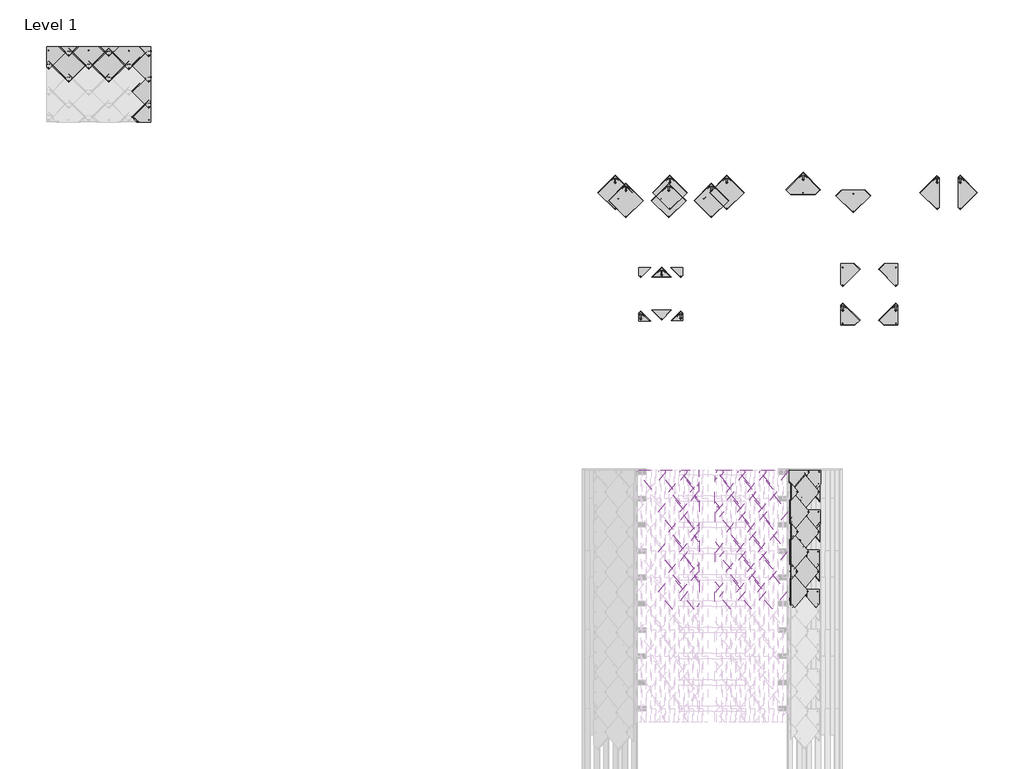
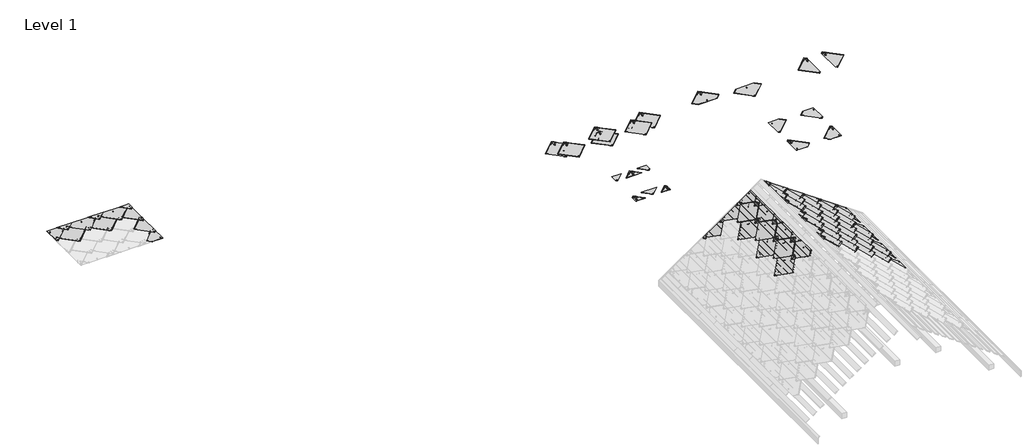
# One storey, part 6 of 6: 86 proxies.
"""IFC4 building model written with IfcOpenShell, lengths in millimetres."""

from ifc_helpers import new_model, si_unit, origin, place, context, project, spatial, transform, mapped, element, save
from components import generic_models_2e27a9fd, generic_models_13d44858, corner_bottom_big_left_black_6b9b3caf, corner_bottom_big_right_black_b907a22d, corner_bottom_small_left_black_798ab3c3, corner_bottom_small_right_black_c7c14b37, corner_top_big_left_black_ba74b52e, corner_top_big_right_black_5e162ca8, corner_top_small_left_black_1e1a13ea, corner_top_small_right_black_2f2f0a71, roofing_panels_sunstyle_tile_non_pv_shingle_non_pv_shingle_be952c39, roofing_panels_sunstyle_tile_shingle_bottom_shingle_bottom_4eb983e8, roofing_panels_sunstyle_tile_shingle_bottom_small_shingle_761d3557, roofing_panels_sunstyle_tile_shingle_left_shingle_left_black_59aad734, roofing_panels_sunstyle_tile_shingle_right_shingle_right_37b1760f, roofing_panels_sunstyle_tile_shingle_top_shingle_top_black_4c6098d4, roofing_panels_sunstyle_tile_shingle_top_small_shingle_top_a40e7fca

model = new_model("IFC4")

# Units and contexts
model_context = context("Model", 3, world=origin())
ifc_project = project(units=[si_unit("LENGTHUNIT", "METRE", prefix="MILLI")], contexts=[model_context])

# Site, building, storey
site = spatial("IfcSite", under=ifc_project)
building = spatial("IfcBuilding", under=site)
storey = spatial("IfcBuildingStorey", under=building, Name="Level 1", Elevation=0.0)

# Proxies
placement = place(None, origin())
generic_models_shape = generic_models_2e27a9fd(model_context)
element("IfcBuildingElementProxy", 1, Name="Roofing_Solar-Panels_SunStyle_Shingle-Sunstyle : Shingle-Sunstyle - Terracotta", ObjectType="Roofing_Solar-Panels_SunStyle_Shingle-Sunstyle : Shingle-Sunstyle - Terracotta", at=placement, inside=storey, context=model_context, shape_type="MappedRepresentation", body=[
    mapped(generic_models_shape, transform((1183.1620599, 12128.1358596, 0.0), x_axis=(1.0, 0.0, 0.0), y_axis=(0.0, 1.0, 0.0), z_axis=(0.0, 0.0, 1.0))),
])
element("IfcBuildingElementProxy", 2, Name="Roofing_Solar-Panels_SunStyle_Shingle-Sunstyle : Shingle Sunstyle - Black", ObjectType="Roofing_Solar-Panels_SunStyle_Shingle-Sunstyle : Shingle Sunstyle - Black", at=placement, inside=storey, context=model_context, shape_type="MappedRepresentation", body=[
    mapped(generic_models_shape, transform((345.4802975, 3253.0732971, 2227.4315855), x_axis=(0.0, -1.0, 0.0), y_axis=(0.8191520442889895, 0.0, 0.5735764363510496), z_axis=(-0.5735764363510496, 0.0, 0.8191520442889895))),
])
element("IfcBuildingElementProxy", 3, Name="Roofing_Solar-Panels_SunStyle_Shingle-Sunstyle : Shingle Sunstyle - Black", ObjectType="Roofing_Solar-Panels_SunStyle_Shingle-Sunstyle : Shingle Sunstyle - Black", at=placement, inside=storey, context=model_context, shape_type="MappedRepresentation", body=[
    mapped(generic_models_shape, transform((26.0313901, 2645.5136672, 2003.7510525), x_axis=(0.0, -1.0, 0.0), y_axis=(0.8191520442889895, 0.0, 0.5735764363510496), z_axis=(-0.5735764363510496, 0.0, 0.8191520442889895))),
])
element("IfcBuildingElementProxy", 4, Name="Roofing_Solar-Panels_SunStyle_Shingle-Sunstyle : Shingle Sunstyle - Black", ObjectType="Roofing_Solar-Panels_SunStyle_Shingle-Sunstyle : Shingle Sunstyle - Black", at=placement, inside=storey, context=model_context, shape_type="MappedRepresentation", body=[
    mapped(generic_models_shape, transform((1753.9407645, 2649.1288923, 2447.3925076), x_axis=(0.0, 1.0, 0.0), y_axis=(-0.8191520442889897, 0.0, 0.5735764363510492), z_axis=(0.5735764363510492, 0.0, 0.8191520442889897))),
])
element("IfcBuildingElementProxy", 5, Name="Roofing_Solar-Panels_SunStyle_Shingle-Sunstyle : Shingle Sunstyle - Black", ObjectType="Roofing_Solar-Panels_SunStyle_Shingle-Sunstyle : Shingle Sunstyle - Black", at=placement, inside=storey, context=model_context, shape_type="MappedRepresentation", body=[
    mapped(generic_models_shape, transform((2401.4129378, 2649.1126292, 1994.0276111), x_axis=(0.0, 1.0, 0.0), y_axis=(-0.8191520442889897, 0.0, 0.5735764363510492), z_axis=(0.5735764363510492, 0.0, 0.8191520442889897))),
])
element("IfcBuildingElementProxy", 6, Name="Roofing_Solar-Panels_SunStyle_Shingle-Sunstyle : Shingle Sunstyle - Black", ObjectType="Roofing_Solar-Panels_SunStyle_Shingle-Sunstyle : Shingle Sunstyle - Black", at=placement, inside=storey, context=model_context, shape_type="MappedRepresentation", body=[
    mapped(generic_models_shape, transform((3050.8783691, 2650.0472293, 1539.2670203), x_axis=(0.0, 1.0, 0.0), y_axis=(-0.8191520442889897, 0.0, 0.5735764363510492), z_axis=(0.5735764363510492, 0.0, 0.8191520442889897))),
])
element("IfcBuildingElementProxy", 7, Name="Roofing_Solar-Panels_SunStyle_Shingle-Sunstyle : Shingle Sunstyle - Black", ObjectType="Roofing_Solar-Panels_SunStyle_Shingle-Sunstyle : Shingle Sunstyle - Black", at=placement, inside=storey, context=model_context, shape_type="MappedRepresentation", body=[
    mapped(generic_models_shape, transform((3698.3844567, 2650.116256, 1085.8783767), x_axis=(0.0, 1.0, 0.0), y_axis=(-0.8191520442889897, 0.0, 0.5735764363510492), z_axis=(0.5735764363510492, 0.0, 0.8191520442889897))),
])
element("IfcBuildingElementProxy", 8, Name="Roofing_Solar-Panels_SunStyle_Shingle-Sunstyle : Shingle Sunstyle - Black", ObjectType="Roofing_Solar-Panels_SunStyle_Shingle-Sunstyle : Shingle Sunstyle - Black", at=placement, inside=storey, context=model_context, shape_type="MappedRepresentation", body=[
    mapped(generic_models_shape, transform((3359.7841494, 3261.9633144, 1322.9688644), x_axis=(0.0, 1.0, 0.0), y_axis=(-0.8191520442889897, 0.0, 0.5735764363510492), z_axis=(0.5735764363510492, 0.0, 0.8191520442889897))),
])
element("IfcBuildingElementProxy", 9, Name="Roofing_Solar-Panels_SunStyle_Shingle-Sunstyle : Shingle Sunstyle - Black", ObjectType="Roofing_Solar-Panels_SunStyle_Shingle-Sunstyle : Shingle Sunstyle - Black", at=placement, inside=storey, context=model_context, shape_type="MappedRepresentation", body=[
    mapped(generic_models_shape, transform((4007.0116941, 3261.7329028, 869.7752587), x_axis=(0.0, 1.0, 0.0), y_axis=(-0.8191520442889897, 0.0, 0.5735764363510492), z_axis=(0.5735764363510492, 0.0, 0.8191520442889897))),
])
element("IfcBuildingElementProxy", 10, Name="Roofing_Solar-Panels_SunStyle_Shingle-Sunstyle : Shingle Sunstyle - Black", ObjectType="Roofing_Solar-Panels_SunStyle_Shingle-Sunstyle : Shingle Sunstyle - Black", at=placement, inside=storey, context=model_context, shape_type="MappedRepresentation", body=[
    mapped(generic_models_shape, transform((-1416.8379401, 12128.1358596, 0.0), x_axis=(1.0, 0.0, 0.0), y_axis=(0.0, 1.0, 0.0), z_axis=(0.0, 0.0, 1.0))),
])
element("IfcBuildingElementProxy", 11, Name="Roofing_Solar-Panels_SunStyle_Shingle-Sunstyle : Shingle Sunstyle - Black", ObjectType="Roofing_Solar-Panels_SunStyle_Shingle-Sunstyle : Shingle Sunstyle - Black", at=placement, inside=storey, context=model_context, shape_type="MappedRepresentation", body=[
    mapped(generic_models_shape, transform((-78.9861205, 12373.1387531, 0.0), x_axis=(1.0, 0.0, 0.0), y_axis=(0.0, 1.0, 0.0), z_axis=(0.0, 0.0, 1.0))),
])
element("IfcBuildingElementProxy", 12, Name="Roofing_Solar-Panels_SunStyle_Shingle-Sunstyle : Shingle Sunstyle - Black", ObjectType="Roofing_Solar-Panels_SunStyle_Shingle-Sunstyle : Shingle Sunstyle - Black", at=placement, inside=storey, context=model_context, shape_type="MappedRepresentation", body=[
    mapped(generic_models_shape, transform((26.0313901, 1425.9321402, 2003.7510525), x_axis=(0.0, -1.0, 0.0), y_axis=(0.8191520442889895, 0.0, 0.5735764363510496), z_axis=(-0.5735764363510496, 0.0, 0.8191520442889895))),
])
element("IfcBuildingElementProxy", 13, Name="Roofing_Solar-Panels_SunStyle_Shingle-Sunstyle : Shingle Sunstyle - Black", ObjectType="Roofing_Solar-Panels_SunStyle_Shingle-Sunstyle : Shingle Sunstyle - Black", at=placement, inside=storey, context=model_context, shape_type="MappedRepresentation", body=[
    mapped(generic_models_shape, transform((345.4802975, 2033.4917701, 2227.4315855), x_axis=(0.0, -1.0, 0.0), y_axis=(0.8191520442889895, 0.0, 0.5735764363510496), z_axis=(-0.5735764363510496, 0.0, 0.8191520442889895))),
])
element("IfcBuildingElementProxy", 14, Name="Roofing_Solar-Panels_SunStyle_Shingle-Sunstyle : Shingle Sunstyle - Black", ObjectType="Roofing_Solar-Panels_SunStyle_Shingle-Sunstyle : Shingle Sunstyle - Black", at=placement, inside=storey, context=model_context, shape_type="MappedRepresentation", body=[
    mapped(generic_models_shape, transform((26.0313901, 206.3506132, 2003.7510525), x_axis=(0.0, -1.0, 0.0), y_axis=(0.8191520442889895, 0.0, 0.5735764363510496), z_axis=(-0.5735764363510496, 0.0, 0.8191520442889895))),
])
element("IfcBuildingElementProxy", 15, Name="Roofing_Solar-Panels_SunStyle_Shingle-Sunstyle : Shingle Sunstyle - Black", ObjectType="Roofing_Solar-Panels_SunStyle_Shingle-Sunstyle : Shingle Sunstyle - Black", at=placement, inside=storey, context=model_context, shape_type="MappedRepresentation", body=[
    mapped(generic_models_shape, transform((345.4802975, 813.9102431, 2227.4315855), x_axis=(0.0, -1.0, 0.0), y_axis=(0.8191520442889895, 0.0, 0.5735764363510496), z_axis=(-0.5735764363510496, 0.0, 0.8191520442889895))),
])
element("IfcBuildingElementProxy", 16, Name="Roofing_Solar-Panels_SunStyle_Shingle-Sunstyle : Shingle Sunstyle - Black", ObjectType="Roofing_Solar-Panels_SunStyle_Shingle-Sunstyle : Shingle Sunstyle - Black", at=placement, inside=storey, context=model_context, shape_type="MappedRepresentation", body=[
    mapped(generic_models_shape, transform((2712.1388692, 3261.8870209, 1776.4549717), x_axis=(0.0, 1.0, 0.0), y_axis=(-0.8191520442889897, 0.0, 0.5735764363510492), z_axis=(0.5735764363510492, 0.0, 0.8191520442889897))),
])
element("IfcBuildingElementProxy", 17, Name="Roofing_Solar-Panels_SunStyle_Shingle-Sunstyle : Shingle Sunstyle - Black", ObjectType="Roofing_Solar-Panels_SunStyle_Shingle-Sunstyle : Shingle Sunstyle - Black", at=placement, inside=storey, context=model_context, shape_type="MappedRepresentation", body=[
    mapped(generic_models_shape, transform((2071.3229563, 3261.8870209, 2225.1591045), x_axis=(0.0, 1.0, 0.0), y_axis=(-0.8191520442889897, 0.0, 0.5735764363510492), z_axis=(0.5735764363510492, 0.0, 0.8191520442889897))),
])
element("IfcBuildingElementProxy", 18, Name="Roofing_Solar-Panels_SunStyle_Shingle-Sunstyle : Shingle Sunstyle - Black", ObjectType="Roofing_Solar-Panels_SunStyle_Shingle-Sunstyle : Shingle Sunstyle - Black", at=placement, inside=storey, context=model_context, shape_type="MappedRepresentation", body=[
    mapped(generic_models_shape, transform((2393.4112115, 1434.5035904, 1999.6304802), x_axis=(0.0, 1.0, 0.0), y_axis=(-0.8191520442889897, 0.0, 0.5735764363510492), z_axis=(0.5735764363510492, 0.0, 0.8191520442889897))),
])
element("IfcBuildingElementProxy", 19, Name="Roofing_Solar-Panels_SunStyle_Shingle-Sunstyle : Shingle Sunstyle - Black", ObjectType="Roofing_Solar-Panels_SunStyle_Shingle-Sunstyle : Shingle Sunstyle - Black", at=placement, inside=storey, context=model_context, shape_type="MappedRepresentation", body=[
    mapped(generic_models_shape, transform((3031.6212279, 1435.5229446, 1552.7510158), x_axis=(0.0, 1.0, 0.0), y_axis=(-0.8191520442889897, 0.0, 0.5735764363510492), z_axis=(0.5735764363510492, 0.0, 0.8191520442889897))),
])
element("IfcBuildingElementProxy", 20, Name="Roofing_Solar-Panels_SunStyle_Shingle-Sunstyle : Shingle Sunstyle - Black", ObjectType="Roofing_Solar-Panels_SunStyle_Shingle-Sunstyle : Shingle Sunstyle - Black", at=placement, inside=storey, context=model_context, shape_type="MappedRepresentation", body=[
    mapped(generic_models_shape, transform((2380.7504058, 219.1853736, 2008.4956718), x_axis=(0.0, 1.0, 0.0), y_axis=(-0.8191520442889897, 0.0, 0.5735764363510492), z_axis=(0.5735764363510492, 0.0, 0.8191520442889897))),
])
element("IfcBuildingElementProxy", 21, Name="Roofing_Solar-Panels_SunStyle_Shingle-Sunstyle : Shingle Sunstyle - Black", ObjectType="Roofing_Solar-Panels_SunStyle_Shingle-Sunstyle : Shingle Sunstyle - Black", at=placement, inside=storey, context=model_context, shape_type="MappedRepresentation", body=[
    mapped(generic_models_shape, transform((3018.9604222, 220.2047277, 1561.6162073), x_axis=(0.0, 1.0, 0.0), y_axis=(-0.8191520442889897, 0.0, 0.5735764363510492), z_axis=(0.5735764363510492, 0.0, 0.8191520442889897))),
])
element("IfcBuildingElementProxy", 22, Name="Roofing_Solar-Panels_SunStyle_Shingle-Sunstyle : Shingle Sunstyle - Black", ObjectType="Roofing_Solar-Panels_SunStyle_Shingle-Sunstyle : Shingle Sunstyle - Black", at=placement, inside=storey, context=model_context, shape_type="MappedRepresentation", body=[
    mapped(generic_models_shape, transform((2712.1388692, 2046.3135484, 1776.4549717), x_axis=(0.0, 1.0, 0.0), y_axis=(-0.8191520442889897, 0.0, 0.5735764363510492), z_axis=(0.5735764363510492, 0.0, 0.8191520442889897))),
])
element("IfcBuildingElementProxy", 23, Name="Roofing_Solar-Panels_SunStyle_Shingle-Sunstyle : Shingle Sunstyle - Black", ObjectType="Roofing_Solar-Panels_SunStyle_Shingle-Sunstyle : Shingle Sunstyle - Black", at=placement, inside=storey, context=model_context, shape_type="MappedRepresentation", body=[
    mapped(generic_models_shape, transform((2071.3229563, 2046.3135484, 2225.1591045), x_axis=(0.0, 1.0, 0.0), y_axis=(-0.8191520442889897, 0.0, 0.5735764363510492), z_axis=(0.5735764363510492, 0.0, 0.8191520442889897))),
])
element("IfcBuildingElementProxy", 24, Name="Roofing_Solar-Panels_SunStyle_Shingle-Sunstyle : Shingle Sunstyle - Black", ObjectType="Roofing_Solar-Panels_SunStyle_Shingle-Sunstyle : Shingle Sunstyle - Black", at=placement, inside=storey, context=model_context, shape_type="MappedRepresentation", body=[
    mapped(generic_models_shape, transform((2699.8330605, 830.9953316, 1785.0715917), x_axis=(0.0, 1.0, 0.0), y_axis=(-0.8191520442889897, 0.0, 0.5735764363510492), z_axis=(0.5735764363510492, 0.0, 0.8191520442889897))),
])
element("IfcBuildingElementProxy", 25, Name="Roofing_Solar-Panels_SunStyle_Shingle-Sunstyle : Shingle Sunstyle - Black", ObjectType="Roofing_Solar-Panels_SunStyle_Shingle-Sunstyle : Shingle Sunstyle - Black", at=placement, inside=storey, context=model_context, shape_type="MappedRepresentation", body=[
    mapped(generic_models_shape, transform((2059.0171476, 830.9953316, 2233.7757245), x_axis=(0.0, 1.0, 0.0), y_axis=(-0.8191520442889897, 0.0, 0.5735764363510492), z_axis=(0.5735764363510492, 0.0, 0.8191520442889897))),
])
element("IfcBuildingElementProxy", 26, Name="Roofing_Solar-Panels_SunStyle_Shingle-Sunstyle : Shingle Sunstyle - Black", ObjectType="Roofing_Solar-Panels_SunStyle_Shingle-Sunstyle : Shingle Sunstyle - Black", at=placement, inside=storey, context=model_context, shape_type="MappedRepresentation", body=[
    mapped(generic_models_shape, transform((3359.7841494, 2041.9633144, 1322.9688644), x_axis=(0.0, 1.0, 0.0), y_axis=(-0.8191520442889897, 0.0, 0.5735764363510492), z_axis=(0.5735764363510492, 0.0, 0.8191520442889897))),
])
element("IfcBuildingElementProxy", 27, Name="Roofing_Solar-Panels_SunStyle_Shingle-Sunstyle : Shingle Sunstyle - Black", ObjectType="Roofing_Solar-Panels_SunStyle_Shingle-Sunstyle : Shingle Sunstyle - Black", at=placement, inside=storey, context=model_context, shape_type="MappedRepresentation", body=[
    mapped(generic_models_shape, transform((4007.0116941, 2041.7329028, 869.7752587), x_axis=(0.0, 1.0, 0.0), y_axis=(-0.8191520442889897, 0.0, 0.5735764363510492), z_axis=(0.5735764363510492, 0.0, 0.8191520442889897))),
])
element("IfcBuildingElementProxy", 28, Name="Roofing_Solar-Panels_SunStyle_Shingle-Sunstyle : Shingle Sunstyle - Black", ObjectType="Roofing_Solar-Panels_SunStyle_Shingle-Sunstyle : Shingle Sunstyle - Black", at=placement, inside=storey, context=model_context, shape_type="MappedRepresentation", body=[
    mapped(generic_models_shape, transform((3681.0146048, 1435.3013064, 1098.040878), x_axis=(0.0, 1.0, 0.0), y_axis=(-0.8191520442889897, 0.0, 0.5735764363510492), z_axis=(0.5735764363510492, 0.0, 0.8191520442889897))),
])
element("IfcBuildingElementProxy", 29, Name="Roofing_Solar-Panels_SunStyle_Shingle-Sunstyle : Shingle Sunstyle - Black", ObjectType="Roofing_Solar-Panels_SunStyle_Shingle-Sunstyle : Shingle Sunstyle - Black", at=placement, inside=storey, context=model_context, shape_type="MappedRepresentation", body=[
    mapped(generic_models_shape, transform((3347.42815, 830.8238496, 1331.6206283), x_axis=(0.0, 1.0, 0.0), y_axis=(-0.8191520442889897, 0.0, 0.5735764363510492), z_axis=(0.5735764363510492, 0.0, 0.8191520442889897))),
])
element("IfcBuildingElementProxy", 30, Name="Roofing_Solar-Panels_SunStyle_Shingle-Sunstyle : Shingle Sunstyle - Black", ObjectType="Roofing_Solar-Panels_SunStyle_Shingle-Sunstyle : Shingle Sunstyle - Black", at=placement, inside=storey, context=model_context, shape_type="MappedRepresentation", body=[
    mapped(generic_models_shape, transform((3994.6556947, 830.593438, 878.4270226), x_axis=(0.0, 1.0, 0.0), y_axis=(-0.8191520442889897, 0.0, 0.5735764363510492), z_axis=(0.5735764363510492, 0.0, 0.8191520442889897))),
])
element("IfcBuildingElementProxy", 31, Name="Roofing_Solar-Panels_SunStyle_Shingle-Sunstyle : Shingle Sunstyle - Black", ObjectType="Roofing_Solar-Panels_SunStyle_Shingle-Sunstyle : Shingle Sunstyle - Black", at=placement, inside=storey, context=model_context, shape_type="MappedRepresentation", body=[
    mapped(generic_models_shape, transform((3668.6586054, 224.1618416, 1106.6926419), x_axis=(0.0, 1.0, 0.0), y_axis=(-0.8191520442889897, 0.0, 0.5735764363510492), z_axis=(0.5735764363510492, 0.0, 0.8191520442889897))),
])
element("IfcBuildingElementProxy", 32, Name="Roofing_Solar-Panels_SunStyle_Shingle-Sunstyle : Shingle Sunstyle - Black", ObjectType="Roofing_Solar-Panels_SunStyle_Shingle-Sunstyle : Shingle Sunstyle - Black", at=placement, inside=storey, context=model_context, shape_type="MappedRepresentation", body=[
    mapped(generic_models_shape, transform((1753.9407645, 1434.1288923, 2447.3925076), x_axis=(0.0, 1.0, 0.0), y_axis=(-0.8191520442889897, 0.0, 0.5735764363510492), z_axis=(0.5735764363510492, 0.0, 0.8191520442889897))),
])
element("IfcBuildingElementProxy", 33, Name="Roofing_Solar-Panels_SunStyle_Shingle-Sunstyle : Shingle Sunstyle - Black", ObjectType="Roofing_Solar-Panels_SunStyle_Shingle-Sunstyle : Shingle Sunstyle - Black", at=placement, inside=storey, context=model_context, shape_type="MappedRepresentation", body=[
    mapped(generic_models_shape, transform((1745.7492441, 219.1288923, 2453.128272), x_axis=(0.0, 1.0, 0.0), y_axis=(-0.8191520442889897, 0.0, 0.5735764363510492), z_axis=(0.5735764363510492, 0.0, 0.8191520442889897))),
])
element("IfcBuildingElementProxy", 34, Name="Roofing_Solar-Panels_SunStyle_Shingle-Sunstyle : Shingle Sunstyle - Silver", ObjectType="Roofing_Solar-Panels_SunStyle_Shingle-Sunstyle : Shingle Sunstyle - Silver", at=placement, inside=storey, context=model_context, shape_type="MappedRepresentation", body=[
    mapped(generic_models_shape, transform((-116.8379401, 12128.1358596, 0.0), x_axis=(1.0, 0.0, 0.0), y_axis=(0.0, 1.0, 0.0), z_axis=(0.0, 0.0, 1.0))),
])
generic_models_2_shape = generic_models_13d44858(model_context)
element("IfcBuildingElementProxy", 35, Name="Roofing_Panels_SunStyle_Tile_Shingle-Customisable : Shingle Customisable - Black", ObjectType="Roofing_Panels_SunStyle_Tile_Shingle-Customisable : Shingle Customisable - Black", at=placement, inside=storey, context=model_context, shape_type="MappedRepresentation", body=[
    mapped(generic_models_2_shape, transform((1654.7133821, 12373.1387531, 0.0), x_axis=(1.0, 0.0, 0.0), y_axis=(0.0, 1.0, 0.0), z_axis=(0.0, 0.0, 1.0))),
])
corner_bottom_big_left_black_shape = corner_bottom_big_left_black_6b9b3caf(model_context)
element("IfcBuildingElementProxy", 36, Name="Roofing_Panels_SunStyle_Tile_Corner-Bottom-Big-Left : Corner Bottom Big Left - Black", ObjectType="Roofing_Panels_SunStyle_Tile_Corner-Bottom-Big-Left : Corner Bottom Big Left - Black", at=placement, inside=storey, context=model_context, shape_type="MappedRepresentation", body=[
    mapped(corner_bottom_big_left_black_shape, transform((5177.5814, 8399.1088323, 0.0), x_axis=(1.0, 0.0, 0.0), y_axis=(0.0, 1.0, 0.0), z_axis=(0.0, 0.0, 1.0))),
])
corner_bottom_big_right_black_shape = corner_bottom_big_right_black_b907a22d(model_context)
element("IfcBuildingElementProxy", 37, Name="Roofing_Panels_SunStyle_Tile_Corner-Bottom-Big-Right : Corner Bottom Big Right - Black", ObjectType="Roofing_Panels_SunStyle_Tile_Corner-Bottom-Big-Right : Corner Bottom Big Right - Black", at=placement, inside=storey, context=model_context, shape_type="MappedRepresentation", body=[
    mapped(corner_bottom_big_right_black_shape, transform((4443.5185665, 3866.4195321, 564.1298561), x_axis=(0.0, 1.0, 0.0), y_axis=(-0.8191520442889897, 0.0, 0.5735764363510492), z_axis=(0.5735764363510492, 0.0, 0.8191520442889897))),
])
element("IfcBuildingElementProxy", 38, Name="Roofing_Panels_SunStyle_Tile_Corner-Bottom-Big-Right : Corner Bottom Big Right - Black", ObjectType="Roofing_Panels_SunStyle_Tile_Corner-Bottom-Big-Right : Corner Bottom Big Right - Black", at=placement, inside=storey, context=model_context, shape_type="MappedRepresentation", body=[
    mapped(corner_bottom_big_right_black_shape, transform((4421.9502419, 2650.116256, 579.2321596), x_axis=(0.0, 1.0, 0.0), y_axis=(-0.8191520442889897, 0.0, 0.5735764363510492), z_axis=(0.5735764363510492, 0.0, 0.8191520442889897))),
])
element("IfcBuildingElementProxy", 39, Name="Roofing_Panels_SunStyle_Tile_Corner-Bottom-Big-Right : Corner Bottom Big Right - Black", ObjectType="Roofing_Panels_SunStyle_Tile_Corner-Bottom-Big-Right : Corner Bottom Big Right - Black", at=placement, inside=storey, context=model_context, shape_type="MappedRepresentation", body=[
    mapped(corner_bottom_big_right_black_shape, transform((-15930.0622323, 14589.8354297, 0.0), x_axis=(1.0, 0.0, 0.0), y_axis=(0.0, 1.0, 0.0), z_axis=(0.0, 0.0, 1.0))),
])
element("IfcBuildingElementProxy", 40, Name="Roofing_Panels_SunStyle_Tile_Corner-Bottom-Big-Right : Corner Bottom Big Right - Black", ObjectType="Roofing_Panels_SunStyle_Tile_Corner-Bottom-Big-Right : Corner Bottom Big Right - Black", at=placement, inside=storey, context=model_context, shape_type="MappedRepresentation", body=[
    mapped(corner_bottom_big_right_black_shape, transform((6796.2093458, 8399.1088323, 0.0), x_axis=(1.0, 0.0, 0.0), y_axis=(0.0, 1.0, 0.0), z_axis=(0.0, 0.0, 1.0))),
])
element("IfcBuildingElementProxy", 41, Name="Roofing_Panels_SunStyle_Tile_Corner-Bottom-Big-Right : Corner Bottom Big Right - Black", ObjectType="Roofing_Panels_SunStyle_Tile_Corner-Bottom-Big-Right : Corner Bottom Big Right - Black", at=placement, inside=storey, context=model_context, shape_type="MappedRepresentation", body=[
    mapped(corner_bottom_big_right_black_shape, transform((4404.5803899, 1435.3013064, 591.3946608), x_axis=(0.0, 1.0, 0.0), y_axis=(-0.8191520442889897, 0.0, 0.5735764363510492), z_axis=(0.5735764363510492, 0.0, 0.8191520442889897))),
])
element("IfcBuildingElementProxy", 42, Name="Roofing_Panels_SunStyle_Tile_Corner-Bottom-Big-Right : Corner Bottom Big Right - Black", ObjectType="Roofing_Panels_SunStyle_Tile_Corner-Bottom-Big-Right : Corner Bottom Big Right - Black", at=placement, inside=storey, context=model_context, shape_type="MappedRepresentation", body=[
    mapped(corner_bottom_big_right_black_shape, transform((4392.2243906, 224.1618416, 600.0464247), x_axis=(0.0, 1.0, 0.0), y_axis=(-0.8191520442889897, 0.0, 0.5735764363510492), z_axis=(0.5735764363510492, 0.0, 0.8191520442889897))),
])
corner_bottom_small_left_black_shape = corner_bottom_small_left_black_798ab3c3(model_context)
element("IfcBuildingElementProxy", 43, Name="Roofing_Panels_SunStyle_Tile_Corner-Bottom-Small-Left : Corner Bottom Small Left - Black", ObjectType="Roofing_Panels_SunStyle_Tile_Corner-Bottom-Small-Left : Corner Bottom Small Left - Black", at=placement, inside=storey, context=model_context, shape_type="MappedRepresentation", body=[
    mapped(corner_bottom_small_left_black_shape, transform((-971.0115331, 8149.4851431, 0.0), x_axis=(1.0, 0.0, 0.0), y_axis=(0.0, 1.0, 0.0), z_axis=(0.0, 0.0, 1.0))),
])
corner_bottom_small_right_black_shape = corner_bottom_small_right_black_c7c14b37(model_context)
element("IfcBuildingElementProxy", 44, Name="Roofing_Panels_SunStyle_Tile_Corner-Bottom-Small-Right : Corner Bottom Small Right - Black", ObjectType="Roofing_Panels_SunStyle_Tile_Corner-Bottom-Small-Right : Corner Bottom Small Right - Black", at=placement, inside=storey, context=model_context, shape_type="MappedRepresentation", body=[
    mapped(corner_bottom_small_right_black_shape, transform((249.6658683, 8149.4851431, 0.0), x_axis=(1.0, 0.0, 0.0), y_axis=(0.0, 1.0, 0.0), z_axis=(0.0, 0.0, 1.0))),
])
corner_top_big_left_black_shape = corner_top_big_left_black_ba74b52e(model_context)
element("IfcBuildingElementProxy", 45, Name="Roofing_Panels_SunStyle_Tile_Corner-Top-Big-Left : Corner Top Big Left - Black", ObjectType="Roofing_Panels_SunStyle_Tile_Corner-Top-Big-Left : Corner Top Big Left - Black", at=placement, inside=storey, context=model_context, shape_type="MappedRepresentation", body=[
    mapped(corner_top_big_left_black_shape, transform((741.905872, 3865.0951942, 2505.0117611), x_axis=(0.0, -1.0, 0.0), y_axis=(0.8191520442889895, 0.0, 0.5735764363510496), z_axis=(-0.5735764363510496, 0.0, 0.8191520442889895))),
])
element("IfcBuildingElementProxy", 46, Name="Roofing_Panels_SunStyle_Tile_Corner-Top-Big-Left : Corner Top Big Left - Black", ObjectType="Roofing_Panels_SunStyle_Tile_Corner-Top-Big-Left : Corner Top Big Left - Black", at=placement, inside=storey, context=model_context, shape_type="MappedRepresentation", body=[
    mapped(corner_top_big_left_black_shape, transform((-18987.0196751, 16738.1410487, 0.0), x_axis=(1.0, 0.0, 0.0), y_axis=(0.0, 1.0, 0.0), z_axis=(0.0, 0.0, 1.0))),
])
element("IfcBuildingElementProxy", 47, Name="Roofing_Panels_SunStyle_Tile_Corner-Top-Big-Left : Corner Top Big Left - Black", ObjectType="Roofing_Panels_SunStyle_Tile_Corner-Top-Big-Left : Corner Top Big Left - Black", at=placement, inside=storey, context=model_context, shape_type="MappedRepresentation", body=[
    mapped(corner_top_big_left_black_shape, transform((5177.5814, 10128.3354445, 0.0), x_axis=(1.0, 0.0, 0.0), y_axis=(0.0, 1.0, 0.0), z_axis=(0.0, 0.0, 1.0))),
])
corner_top_big_right_black_shape = corner_top_big_right_black_5e162ca8(model_context)
element("IfcBuildingElementProxy", 48, Name="Roofing_Panels_SunStyle_Tile_Corner-Top-Big-Right : Corner Top Big Right - Black", ObjectType="Roofing_Panels_SunStyle_Tile_Corner-Top-Big-Right : Corner Top Big Right - Black", at=placement, inside=storey, context=model_context, shape_type="MappedRepresentation", body=[
    mapped(corner_top_big_right_black_shape, transform((6796.2093458, 10128.3354445, 0.0), x_axis=(1.0, 0.0, 0.0), y_axis=(0.0, 1.0, 0.0), z_axis=(0.0, 0.0, 1.0))),
])
corner_top_small_left_black_shape = corner_top_small_left_black_1e1a13ea(model_context)
element("IfcBuildingElementProxy", 49, Name="Roofing_Panels_SunStyle_Tile_Corner-Top-Small-Left : Corner Top Small Left - Black", ObjectType="Roofing_Panels_SunStyle_Tile_Corner-Top-Small-Left : Corner Top Small Left - Black", at=placement, inside=storey, context=model_context, shape_type="MappedRepresentation", body=[
    mapped(corner_top_small_left_black_shape, transform((-971.0115331, 10396.2161275, 0.0), x_axis=(1.0, 0.0, 0.0), y_axis=(0.0, 1.0, 0.0), z_axis=(0.0, 0.0, 1.0))),
])
corner_top_small_right_black_shape = corner_top_small_right_black_2f2f0a71(model_context)
element("IfcBuildingElementProxy", 50, Name="Roofing_Panels_SunStyle_Tile_Corner-Top-Small-Right : Corner Top Small Right - Black", ObjectType="Roofing_Panels_SunStyle_Tile_Corner-Top-Small-Right : Corner Top Small Right - Black", at=placement, inside=storey, context=model_context, shape_type="MappedRepresentation", body=[
    mapped(corner_top_small_right_black_shape, transform((1034.7612281, 3865.0951942, 2950.9674404), x_axis=(0.0, 1.0, 0.0), y_axis=(-0.8191520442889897, 0.0, 0.5735764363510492), z_axis=(0.5735764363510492, 0.0, 0.8191520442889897))),
])
element("IfcBuildingElementProxy", 51, Name="Roofing_Panels_SunStyle_Tile_Corner-Top-Small-Right : Corner Top Small Right - Black", ObjectType="Roofing_Panels_SunStyle_Tile_Corner-Top-Small-Right : Corner Top Small Right - Black", at=placement, inside=storey, context=model_context, shape_type="MappedRepresentation", body=[
    mapped(corner_top_small_right_black_shape, transform((-15930.0622323, 17128.7817705, 0.0), x_axis=(1.0, 0.0, 0.0), y_axis=(0.0, 1.0, 0.0), z_axis=(0.0, 0.0, 1.0))),
])
element("IfcBuildingElementProxy", 52, Name="Roofing_Panels_SunStyle_Tile_Corner-Top-Small-Right : Corner Top Small Right - Black", ObjectType="Roofing_Panels_SunStyle_Tile_Corner-Top-Small-Right : Corner Top Small Right - Black", at=placement, inside=storey, context=model_context, shape_type="MappedRepresentation", body=[
    mapped(corner_top_small_right_black_shape, transform((249.6658683, 10396.2161275, 0.0), x_axis=(1.0, 0.0, 0.0), y_axis=(0.0, 1.0, 0.0), z_axis=(0.0, 0.0, 1.0))),
])
roofing_panels_sunstyle_tile_non_pv_shingle_non_pv_shingle_shape = roofing_panels_sunstyle_tile_non_pv_shingle_non_pv_shingle_be952c39(model_context)
element("IfcBuildingElementProxy", 53, Name="Roofing_Panels_SunStyle_Tile_Non-PV-Shingle : Non PV Shingle - Black", ObjectType="Roofing_Panels_SunStyle_Tile_Non-PV-Shingle : Non PV Shingle - Black", at=placement, inside=storey, context=model_context, shape_type="MappedRepresentation", body=[
    mapped(roofing_panels_sunstyle_tile_non_pv_shingle_non_pv_shingle_shape, transform((-18375.6614882, 16253.9473656, 0.0), x_axis=(1.0, 0.0, 0.0), y_axis=(0.0, 1.0, 0.0), z_axis=(0.0, 0.0, 1.0))),
])
element("IfcBuildingElementProxy", 54, Name="Roofing_Panels_SunStyle_Tile_Non-PV-Shingle : Non PV Shingle - Black", ObjectType="Roofing_Panels_SunStyle_Tile_Non-PV-Shingle : Non PV Shingle - Black", at=placement, inside=storey, context=model_context, shape_type="MappedRepresentation", body=[
    mapped(roofing_panels_sunstyle_tile_non_pv_shingle_non_pv_shingle_shape, transform((-17152.8625549, 16254.5705537, 0.0), x_axis=(1.0, 0.0, 0.0), y_axis=(0.0, 1.0, 0.0), z_axis=(0.0, 0.0, 1.0))),
])
element("IfcBuildingElementProxy", 55, Name="Roofing_Panels_SunStyle_Tile_Non-PV-Shingle : Non PV Shingle - Black", ObjectType="Roofing_Panels_SunStyle_Tile_Non-PV-Shingle : Non PV Shingle - Black", at=placement, inside=storey, context=model_context, shape_type="MappedRepresentation", body=[
    mapped(roofing_panels_sunstyle_tile_non_pv_shingle_non_pv_shingle_shape, transform((-1749.4382965, 12373.1387531, 0.0), x_axis=(1.0, 0.0, 0.0), y_axis=(0.0, 1.0, 0.0), z_axis=(0.0, 0.0, 1.0))),
])
roofing_panels_sunstyle_tile_shingle_bottom_shingle_bottom_shape = roofing_panels_sunstyle_tile_shingle_bottom_shingle_bottom_4eb983e8(model_context)
element("IfcBuildingElementProxy", 56, Name="Roofing_Panels_SunStyle_Tile_Shingle-Bottom : Shingle Bottom - Black", ObjectType="Roofing_Panels_SunStyle_Tile_Shingle-Bottom : Shingle Bottom - Black", at=placement, inside=storey, context=model_context, shape_type="MappedRepresentation", body=[
    mapped(roofing_panels_sunstyle_tile_shingle_bottom_shingle_bottom_shape, transform((3972.6793706, 12373.1387531, 0.0), x_axis=(1.0, 0.0, 0.0), y_axis=(0.0, 1.0, 0.0), z_axis=(0.0, 0.0, 1.0))),
])
roofing_panels_sunstyle_tile_shingle_bottom_small_shingle_shape = roofing_panels_sunstyle_tile_shingle_bottom_small_shingle_761d3557(model_context)
element("IfcBuildingElementProxy", 57, Name="Roofing_Panels_SunStyle_Tile_Shingle-Bottom-Small : Shingle Bottom Small - Black", ObjectType="Roofing_Panels_SunStyle_Tile_Shingle-Bottom-Small : Shingle Bottom Small - Black", at=placement, inside=storey, context=model_context, shape_type="MappedRepresentation", body=[
    mapped(roofing_panels_sunstyle_tile_shingle_bottom_small_shingle_shape, transform((4744.3129196, 3261.6999897, 353.5113826), x_axis=(0.0, 1.0, 0.0), y_axis=(-0.8191520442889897, 0.0, 0.5735764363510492), z_axis=(0.5735764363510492, 0.0, 0.8191520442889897))),
])
element("IfcBuildingElementProxy", 58, Name="Roofing_Panels_SunStyle_Tile_Shingle-Bottom-Small : Shingle Bottom Small - Black", ObjectType="Roofing_Panels_SunStyle_Tile_Shingle-Bottom-Small : Shingle Bottom Small - Black", at=placement, inside=storey, context=model_context, shape_type="MappedRepresentation", body=[
    mapped(roofing_panels_sunstyle_tile_shingle_bottom_small_shingle_shape, transform((-334.311905, 9468.9432071, 0.0), x_axis=(1.0, 0.0, 0.0), y_axis=(0.0, 1.0, 0.0), z_axis=(0.0, 0.0, 1.0))),
])
element("IfcBuildingElementProxy", 59, Name="Roofing_Panels_SunStyle_Tile_Shingle-Bottom-Small : Shingle Bottom Small - Black", ObjectType="Roofing_Panels_SunStyle_Tile_Shingle-Bottom-Small : Shingle Bottom Small - Black", at=placement, inside=storey, context=model_context, shape_type="MappedRepresentation", body=[
    mapped(roofing_panels_sunstyle_tile_shingle_bottom_small_shingle_shape, transform((4744.3129196, 2041.6999897, 353.5113826), x_axis=(0.0, 1.0, 0.0), y_axis=(-0.8191520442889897, 0.0, 0.5735764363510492), z_axis=(0.5735764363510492, 0.0, 0.8191520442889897))),
])
element("IfcBuildingElementProxy", 60, Name="Roofing_Panels_SunStyle_Tile_Shingle-Bottom-Small : Shingle Bottom Small - Black", ObjectType="Roofing_Panels_SunStyle_Tile_Shingle-Bottom-Small : Shingle Bottom Small - Black", at=placement, inside=storey, context=model_context, shape_type="MappedRepresentation", body=[
    mapped(roofing_panels_sunstyle_tile_shingle_bottom_small_shingle_shape, transform((4731.9569203, 830.560525, 362.1631465), x_axis=(0.0, 1.0, 0.0), y_axis=(-0.8191520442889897, 0.0, 0.5735764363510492), z_axis=(0.5735764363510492, 0.0, 0.8191520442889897))),
])
roofing_panels_sunstyle_tile_shingle_left_shingle_left_black_shape = roofing_panels_sunstyle_tile_shingle_left_shingle_left_black_59aad734(model_context)
element("IfcBuildingElementProxy", 61, Name="Roofing_Panels_SunStyle_Tile_Shingle-Left : Shingle Left - Black", ObjectType="Roofing_Panels_SunStyle_Tile_Shingle-Left : Shingle Left - Black", at=placement, inside=storey, context=model_context, shape_type="MappedRepresentation", body=[
    mapped(roofing_panels_sunstyle_tile_shingle_left_shingle_left_black_shape, transform((21.052073, 3865.0951942, 2000.2644971), x_axis=(0.0, -1.0, 0.0), y_axis=(0.8191520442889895, 0.0, 0.5735764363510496), z_axis=(-0.5735764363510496, 0.0, 0.8191520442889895))),
])
element("IfcBuildingElementProxy", 62, Name="Roofing_Panels_SunStyle_Tile_Shingle-Left : Shingle Left - Black", ObjectType="Roofing_Panels_SunStyle_Tile_Shingle-Left : Shingle Left - Black", at=placement, inside=storey, context=model_context, shape_type="MappedRepresentation", body=[
    mapped(roofing_panels_sunstyle_tile_shingle_left_shingle_left_black_shape, transform((-634.2695624, 3865.0951942, 1541.403348), x_axis=(0.0, -1.0, 0.0), y_axis=(0.8191520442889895, 0.0, 0.5735764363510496), z_axis=(-0.5735764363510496, 0.0, 0.8191520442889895))),
])
element("IfcBuildingElementProxy", 63, Name="Roofing_Panels_SunStyle_Tile_Shingle-Left : Shingle Left - Black", ObjectType="Roofing_Panels_SunStyle_Tile_Shingle-Left : Shingle Left - Black", at=placement, inside=storey, context=model_context, shape_type="MappedRepresentation", body=[
    mapped(roofing_panels_sunstyle_tile_shingle_left_shingle_left_black_shape, transform((8750.9832887, 12373.1387531, 0.0), x_axis=(1.0, 0.0, 0.0), y_axis=(0.0, 1.0, 0.0), z_axis=(0.0, 0.0, 1.0))),
])
roofing_panels_sunstyle_tile_shingle_right_shingle_right_shape = roofing_panels_sunstyle_tile_shingle_right_shingle_right_37b1760f(model_context)
element("IfcBuildingElementProxy", 64, Name="Roofing_Panels_SunStyle_Tile_Shingle-Right : Shingle Right - Black", ObjectType="Roofing_Panels_SunStyle_Tile_Shingle-Right : Shingle Right - Black", at=placement, inside=storey, context=model_context, shape_type="MappedRepresentation", body=[
    mapped(roofing_panels_sunstyle_tile_shingle_right_shingle_right_shape, transform((1760.9104077, 3865.2432055, 2442.512311), x_axis=(0.0, 1.0, 0.0), y_axis=(-0.8191520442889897, 0.0, 0.5735764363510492), z_axis=(0.5735764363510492, 0.0, 0.8191520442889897))),
])
element("IfcBuildingElementProxy", 65, Name="Roofing_Panels_SunStyle_Tile_Shingle-Right : Shingle Right - Black", ObjectType="Roofing_Panels_SunStyle_Tile_Shingle-Right : Shingle Right - Black", at=placement, inside=storey, context=model_context, shape_type="MappedRepresentation", body=[
    mapped(roofing_panels_sunstyle_tile_shingle_right_shingle_right_shape, transform((2413.2251709, 3865.6282849, 1985.7565965), x_axis=(0.0, 1.0, 0.0), y_axis=(-0.8191520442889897, 0.0, 0.5735764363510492), z_axis=(0.5735764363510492, 0.0, 0.8191520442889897))),
])
element("IfcBuildingElementProxy", 66, Name="Roofing_Panels_SunStyle_Tile_Shingle-Right : Shingle Right - Black", ObjectType="Roofing_Panels_SunStyle_Tile_Shingle-Right : Shingle Right - Black", at=placement, inside=storey, context=model_context, shape_type="MappedRepresentation", body=[
    mapped(roofing_panels_sunstyle_tile_shingle_right_shingle_right_shape, transform((3065.5141749, 3866.0036007, 1529.0189188), x_axis=(0.0, 1.0, 0.0), y_axis=(-0.8191520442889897, 0.0, 0.5735764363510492), z_axis=(0.5735764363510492, 0.0, 0.8191520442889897))),
])
element("IfcBuildingElementProxy", 67, Name="Roofing_Panels_SunStyle_Tile_Shingle-Right : Shingle Right - Black", ObjectType="Roofing_Panels_SunStyle_Tile_Shingle-Right : Shingle Right - Black", at=placement, inside=storey, context=model_context, shape_type="MappedRepresentation", body=[
    mapped(roofing_panels_sunstyle_tile_shingle_right_shingle_right_shape, transform((3717.6237328, 3866.3892894, 1072.4068906), x_axis=(0.0, 1.0, 0.0), y_axis=(-0.8191520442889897, 0.0, 0.5735764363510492), z_axis=(0.5735764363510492, 0.0, 0.8191520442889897))),
])
element("IfcBuildingElementProxy", 68, Name="Roofing_Panels_SunStyle_Tile_Shingle-Right : Shingle Right - Black", ObjectType="Roofing_Panels_SunStyle_Tile_Shingle-Right : Shingle Right - Black", at=placement, inside=storey, context=model_context, shape_type="MappedRepresentation", body=[
    mapped(roofing_panels_sunstyle_tile_shingle_right_shingle_right_shape, transform((-15930.0622323, 15464.0620489, 0.0), x_axis=(1.0, 0.0, 0.0), y_axis=(0.0, 1.0, 0.0), z_axis=(0.0, 0.0, 1.0))),
])
element("IfcBuildingElementProxy", 69, Name="Roofing_Panels_SunStyle_Tile_Shingle-Right : Shingle Right - Black", ObjectType="Roofing_Panels_SunStyle_Tile_Shingle-Right : Shingle Right - Black", at=placement, inside=storey, context=model_context, shape_type="MappedRepresentation", body=[
    mapped(roofing_panels_sunstyle_tile_shingle_right_shingle_right_shape, transform((-15930.1515892, 16252.1363486, 0.0), x_axis=(1.0, 0.0, 0.0), y_axis=(0.0, 1.0, 0.0), z_axis=(0.0, 0.0, 1.0))),
])
element("IfcBuildingElementProxy", 70, Name="Roofing_Panels_SunStyle_Tile_Shingle-Right : Shingle Right - Black", ObjectType="Roofing_Panels_SunStyle_Tile_Shingle-Right : Shingle Right - Black", at=placement, inside=storey, context=model_context, shape_type="MappedRepresentation", body=[
    mapped(roofing_panels_sunstyle_tile_shingle_right_shingle_right_shape, transform((8048.5042622, 12373.1387531, 0.0), x_axis=(1.0, 0.0, 0.0), y_axis=(0.0, 1.0, 0.0), z_axis=(0.0, 0.0, 1.0))),
])
roofing_panels_sunstyle_tile_shingle_top_shingle_top_black_shape = roofing_panels_sunstyle_tile_shingle_top_shingle_top_black_4c6098d4(model_context)
element("IfcBuildingElementProxy", 71, Name="Roofing_Panels_SunStyle_Tile_Shingle-Top : Shingle Top - Black", ObjectType="Roofing_Panels_SunStyle_Tile_Shingle-Top : Shingle Top - Black", at=placement, inside=storey, context=model_context, shape_type="MappedRepresentation", body=[
    mapped(roofing_panels_sunstyle_tile_shingle_top_shingle_top_black_shape, transform((745.4096157, 2645.1808737, 2507.4651089), x_axis=(0.0, -1.0, 0.0), y_axis=(0.8191520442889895, 0.0, 0.5735764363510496), z_axis=(-0.5735764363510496, 0.0, 0.8191520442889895))),
])
element("IfcBuildingElementProxy", 72, Name="Roofing_Panels_SunStyle_Tile_Shingle-Top : Shingle Top - Black", ObjectType="Roofing_Panels_SunStyle_Tile_Shingle-Top : Shingle Top - Black", at=placement, inside=storey, context=model_context, shape_type="MappedRepresentation", body=[
    mapped(roofing_panels_sunstyle_tile_shingle_top_shingle_top_black_shape, transform((1350.0792095, 3262.1876995, 2730.1794129), x_axis=(0.0, 1.0, 0.0), y_axis=(-0.8191520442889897, 0.0, 0.5735764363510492), z_axis=(0.5735764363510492, 0.0, 0.8191520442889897))),
])
element("IfcBuildingElementProxy", 73, Name="Roofing_Panels_SunStyle_Tile_Shingle-Top : Shingle Top - Black", ObjectType="Roofing_Panels_SunStyle_Tile_Shingle-Top : Shingle Top - Black", at=placement, inside=storey, context=model_context, shape_type="MappedRepresentation", body=[
    mapped(roofing_panels_sunstyle_tile_shingle_top_shingle_top_black_shape, transform((-17764.4246151, 16738.2015305, 0.0), x_axis=(1.0, 0.0, 0.0), y_axis=(0.0, 1.0, 0.0), z_axis=(0.0, 0.0, 1.0))),
])
element("IfcBuildingElementProxy", 74, Name="Roofing_Panels_SunStyle_Tile_Shingle-Top : Shingle Top - Black", ObjectType="Roofing_Panels_SunStyle_Tile_Shingle-Top : Shingle Top - Black", at=placement, inside=storey, context=model_context, shape_type="MappedRepresentation", body=[
    mapped(roofing_panels_sunstyle_tile_shingle_top_shingle_top_black_shape, transform((-16541.4622323, 16730.3934013, 0.0), x_axis=(1.0, 0.0, 0.0), y_axis=(0.0, 1.0, 0.0), z_axis=(0.0, 0.0, 1.0))),
])
element("IfcBuildingElementProxy", 75, Name="Roofing_Panels_SunStyle_Tile_Shingle-Top : Shingle Top - Black", ObjectType="Roofing_Panels_SunStyle_Tile_Shingle-Top : Shingle Top - Black", at=placement, inside=storey, context=model_context, shape_type="MappedRepresentation", body=[
    mapped(roofing_panels_sunstyle_tile_shingle_top_shingle_top_black_shape, transform((5499.6084742, 12373.1387531, 0.0), x_axis=(1.0, 0.0, 0.0), y_axis=(0.0, 1.0, 0.0), z_axis=(0.0, 0.0, 1.0))),
])
element("IfcBuildingElementProxy", 76, Name="Roofing_Panels_SunStyle_Tile_Shingle-Top : Shingle Top - Black", ObjectType="Roofing_Panels_SunStyle_Tile_Shingle-Top : Shingle Top - Black", at=placement, inside=storey, context=model_context, shape_type="MappedRepresentation", body=[
    mapped(roofing_panels_sunstyle_tile_shingle_top_shingle_top_black_shape, transform((745.4096157, 1425.1808737, 2507.4651089), x_axis=(0.0, -1.0, 0.0), y_axis=(0.8191520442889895, 0.0, 0.5735764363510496), z_axis=(-0.5735764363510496, 0.0, 0.8191520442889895))),
])
element("IfcBuildingElementProxy", 77, Name="Roofing_Panels_SunStyle_Tile_Shingle-Top : Shingle Top - Black", ObjectType="Roofing_Panels_SunStyle_Tile_Shingle-Top : Shingle Top - Black", at=placement, inside=storey, context=model_context, shape_type="MappedRepresentation", body=[
    mapped(roofing_panels_sunstyle_tile_shingle_top_shingle_top_black_shape, transform((745.4096157, 205.1808737, 2507.4651089), x_axis=(0.0, -1.0, 0.0), y_axis=(0.8191520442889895, 0.0, 0.5735764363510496), z_axis=(-0.5735764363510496, 0.0, 0.8191520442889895))),
])
roofing_panels_sunstyle_tile_shingle_top_small_shingle_top_shape = roofing_panels_sunstyle_tile_shingle_top_small_shingle_top_a40e7fca(model_context)
element("IfcBuildingElementProxy", 78, Name="Roofing_Panels_SunStyle_Tile_Shingle-Top-Small : Shingle Top Small - Black", ObjectType="Roofing_Panels_SunStyle_Tile_Shingle-Top-Small : Shingle Top Small - Black", at=placement, inside=storey, context=model_context, shape_type="MappedRepresentation", body=[
    mapped(roofing_panels_sunstyle_tile_shingle_top_small_shingle_top_shape, transform((1063.5244804, 3253.4508606, 2730.2115351), x_axis=(0.0, -1.0, 0.0), y_axis=(0.8191520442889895, 0.0, 0.5735764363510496), z_axis=(-0.5735764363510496, 0.0, 0.8191520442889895))),
])
element("IfcBuildingElementProxy", 79, Name="Roofing_Panels_SunStyle_Tile_Shingle-Top-Small : Shingle Top Small - Black", ObjectType="Roofing_Panels_SunStyle_Tile_Shingle-Top-Small : Shingle Top Small - Black", at=placement, inside=storey, context=model_context, shape_type="MappedRepresentation", body=[
    mapped(roofing_panels_sunstyle_tile_shingle_top_small_shingle_top_shape, transform((1032.9595791, 2649.0951942, 2952.2289686), x_axis=(0.0, 1.0, 0.0), y_axis=(-0.8191520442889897, 0.0, 0.5735764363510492), z_axis=(0.5735764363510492, 0.0, 0.8191520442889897))),
])
element("IfcBuildingElementProxy", 80, Name="Roofing_Panels_SunStyle_Tile_Shingle-Top-Small : Shingle Top Small - Black", ObjectType="Roofing_Panels_SunStyle_Tile_Shingle-Top-Small : Shingle Top Small - Black", at=placement, inside=storey, context=model_context, shape_type="MappedRepresentation", body=[
    mapped(roofing_panels_sunstyle_tile_shingle_top_small_shingle_top_shape, transform((-18375.640204, 17133.0299865, 0.0), x_axis=(1.0, 0.0, 0.0), y_axis=(0.0, 1.0, 0.0), z_axis=(0.0, 0.0, 1.0))),
])
element("IfcBuildingElementProxy", 81, Name="Roofing_Panels_SunStyle_Tile_Shingle-Top-Small : Shingle Top Small - Black", ObjectType="Roofing_Panels_SunStyle_Tile_Shingle-Top-Small : Shingle Top Small - Black", at=placement, inside=storey, context=model_context, shape_type="MappedRepresentation", body=[
    mapped(roofing_panels_sunstyle_tile_shingle_top_small_shingle_top_shape, transform((-17152.8622323, 17131.1186094, 0.0), x_axis=(1.0, 0.0, 0.0), y_axis=(0.0, 1.0, 0.0), z_axis=(0.0, 0.0, 1.0))),
])
element("IfcBuildingElementProxy", 82, Name="Roofing_Panels_SunStyle_Tile_Shingle-Top-Small : Shingle Top Small - Black", ObjectType="Roofing_Panels_SunStyle_Tile_Shingle-Top-Small : Shingle Top Small - Black", at=placement, inside=storey, context=model_context, shape_type="MappedRepresentation", body=[
    mapped(roofing_panels_sunstyle_tile_shingle_top_small_shingle_top_shape, transform((-334.311905, 9108.9432071, 0.0), x_axis=(1.0, 0.0, 0.0), y_axis=(0.0, 1.0, 0.0), z_axis=(0.0, 0.0, 1.0))),
])
element("IfcBuildingElementProxy", 83, Name="Roofing_Panels_SunStyle_Tile_Shingle-Top-Small : Shingle Top Small - Black", ObjectType="Roofing_Panels_SunStyle_Tile_Shingle-Top-Small : Shingle Top Small - Black", at=placement, inside=storey, context=model_context, shape_type="MappedRepresentation", body=[
    mapped(roofing_panels_sunstyle_tile_shingle_top_small_shingle_top_shape, transform((1063.5244804, 2033.4508606, 2730.2115351), x_axis=(0.0, -1.0, 0.0), y_axis=(0.8191520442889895, 0.0, 0.5735764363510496), z_axis=(-0.5735764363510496, 0.0, 0.8191520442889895))),
])
element("IfcBuildingElementProxy", 84, Name="Roofing_Panels_SunStyle_Tile_Shingle-Top-Small : Shingle Top Small - Black", ObjectType="Roofing_Panels_SunStyle_Tile_Shingle-Top-Small : Shingle Top Small - Black", at=placement, inside=storey, context=model_context, shape_type="MappedRepresentation", body=[
    mapped(roofing_panels_sunstyle_tile_shingle_top_small_shingle_top_shape, transform((1063.5244804, 813.4508606, 2730.2115351), x_axis=(0.0, -1.0, 0.0), y_axis=(0.8191520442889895, 0.0, 0.5735764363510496), z_axis=(-0.5735764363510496, 0.0, 0.8191520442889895))),
])
element("IfcBuildingElementProxy", 85, Name="Roofing_Panels_SunStyle_Tile_Shingle-Top-Small : Shingle Top Small - Black", ObjectType="Roofing_Panels_SunStyle_Tile_Shingle-Top-Small : Shingle Top Small - Black", at=placement, inside=storey, context=model_context, shape_type="MappedRepresentation", body=[
    mapped(roofing_panels_sunstyle_tile_shingle_top_small_shingle_top_shape, transform((1032.9595791, 1434.0951942, 2952.2289686), x_axis=(0.0, 1.0, 0.0), y_axis=(-0.8191520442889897, 0.0, 0.5735764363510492), z_axis=(0.5735764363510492, 0.0, 0.8191520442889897))),
])
element("IfcBuildingElementProxy", 86, Name="Roofing_Panels_SunStyle_Tile_Shingle-Top-Small : Shingle Top Small - Black", ObjectType="Roofing_Panels_SunStyle_Tile_Shingle-Top-Small : Shingle Top Small - Black", at=placement, inside=storey, context=model_context, shape_type="MappedRepresentation", body=[
    mapped(roofing_panels_sunstyle_tile_shingle_top_small_shingle_top_shape, transform((1024.7680586, 219.0951942, 2957.964733), x_axis=(0.0, 1.0, 0.0), y_axis=(-0.8191520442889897, 0.0, 0.5735764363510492), z_axis=(0.5735764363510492, 0.0, 0.8191520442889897))),
])

save(model, "model.ifc")
